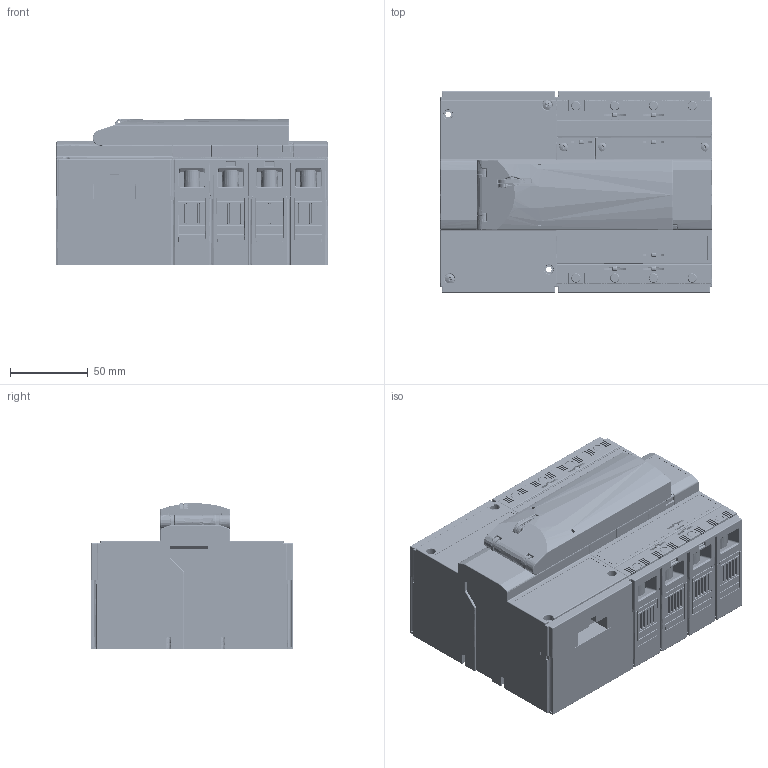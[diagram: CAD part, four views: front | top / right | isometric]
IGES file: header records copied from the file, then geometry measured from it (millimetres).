
Start section: SolidWorks IGES file using analytic representation for surfaces
Global section: file name: U:\14_RD\05_Technical_office\04_Office\Hrdinova\3D modely - IGES\Modeion\BC160NT405_406__MP-BC.IGS; native system: SolidWorks 2011; preprocessor: SolidWorks 2011; author: adhrja3; date: 170615.143359; units: millimetre
Bounding box: 174.9 x 130 x 94.7 mm (x, y, z)
Surface area: 222494.6 mm2 (no closed solid volume)
Topology: 0 solids, 0 shells, 7019 faces, 55373 edges, 55249 vertices
Faces by surface type: bspline 4527, revolution 2492
